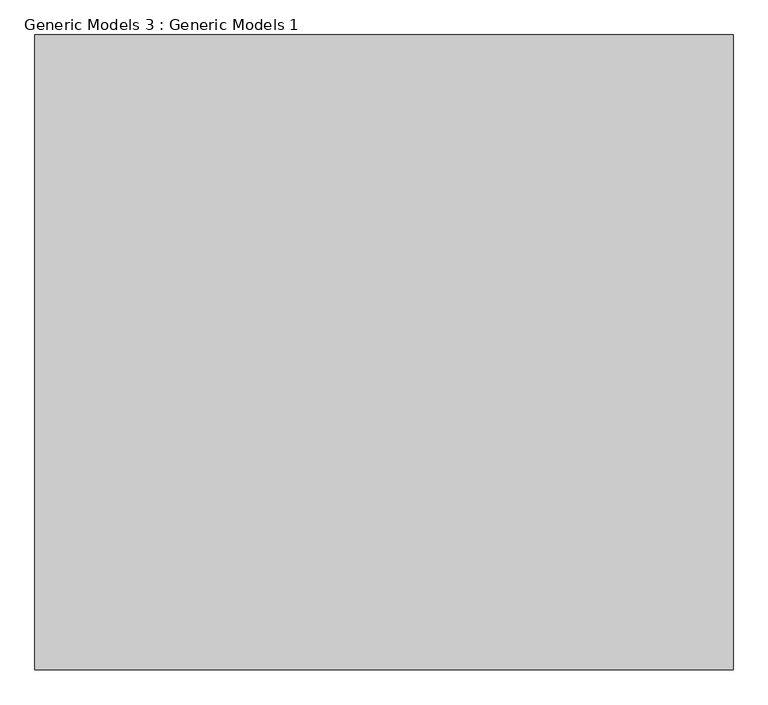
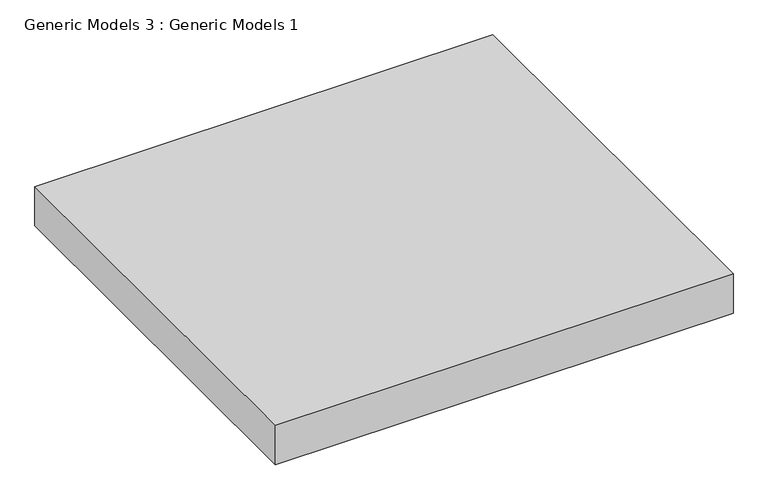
"""IFC4 building model written with IfcOpenShell, lengths in millimetres: proxy geometry, Generic Models 3 : Generic Models 1."""

from ifc_helpers import new_model, si_unit, origin, origin_with_axes, place, context, project, spatial, polyline, outline, extrude, source, transform, mapped, element, save


def generic_models_3_generic_models_1_f9f5fa65(model_context):
    return source(origin(), model_context, "Body", "SweptSolid", [
        extrude(outline(polyline([(-10262.8148829, 973.4227174), (-10262.8148829, 1973.4227174), (-9162.8148829, 1973.4227174), (-9162.8148829, 973.4227174), (-10262.8148829, 973.4227174)])), origin_with_axes(), (0.0, 0.0, 1.0), 100.0),
    ])


if __name__ == "__main__":
    model = new_model("IFC4")
    model_context = context("Model", 3, world=origin())
    ifc_project = project(units=[si_unit("LENGTHUNIT", "METRE", prefix="MILLI")], contexts=[model_context])
    site = spatial("IfcSite", under=ifc_project)
    building = spatial("IfcBuilding", under=site)
    placement = place(None, origin())
    generic_models_3_generic_models_1_shape = generic_models_3_generic_models_1_f9f5fa65(model_context)
    element("IfcBuildingElementProxy", 1, Name="Generic Models 3 : Generic Models 1", ObjectType="Generic Models 3 : Generic Models 1", at=placement, inside=building, context=model_context, shape_type="MappedRepresentation", body=[
        mapped(generic_models_3_generic_models_1_shape, transform((0.0, 0.0, 0.0), x_axis=(1.0, 0.0, 0.0), y_axis=(0.0, 1.0, 0.0), z_axis=(0.0, 0.0, 1.0))),
    ])
    save(model, "model.ifc")
